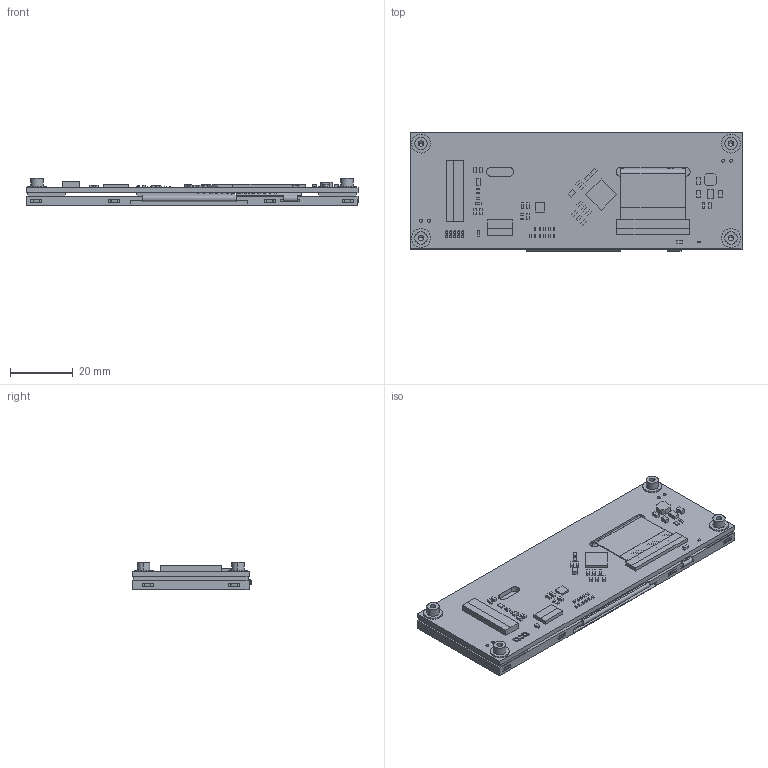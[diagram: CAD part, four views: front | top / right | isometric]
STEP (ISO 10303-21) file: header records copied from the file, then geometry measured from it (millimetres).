
FILE_DESCRIPTION (( 'STEP AP214' ), '1' );
FILE_NAME ('CFAF480128A0-039TN-A1-1.STEP', '2020-11-30T20:11:05', ( '' ), ( '' ), 'SwSTEP 2.0', 'SolidWorks 2020', '' );
FILE_SCHEMA (( 'AUTOMOTIVE_DESIGN' ));
Length unit declared in the file: millimetre
Products named in the file (5): CFAF480128A0-039TN-A1-1; VHB_Tape_10099_Short-1; CFA_10099; CFAF480128A0-039TN; VHB_Tape_10099-1
Assembly tree (5 placements, depth 2):
  CFAF480128A0-039TN-A1-1
    CFA_10099
    VHB_Tape_10099-1  x2
    VHB_Tape_10099_Short-1
    CFAF480128A0-039TN
Bounding box: 105.5 x 37.77 x 8.65 mm (x, y, z)
Volume: 20081.8 mm3; surface area: 23859.8 mm2
Topology: 6 solids, 6 shells, 836 faces, 2139 edges, 1422 vertices
Faces by surface type: plane 727, cylinder 99, cone 8, bspline 2
Entity records: 35252 total; most frequent: CARTESIAN_POINT 7423, ORIENTED_EDGE 4238, DIRECTION 3055, EDGE_CURVE 2119, VERTEX_POINT 1414, VECTOR 1075, LINE 1075, AXIS2_PLACEMENT_3D 990
